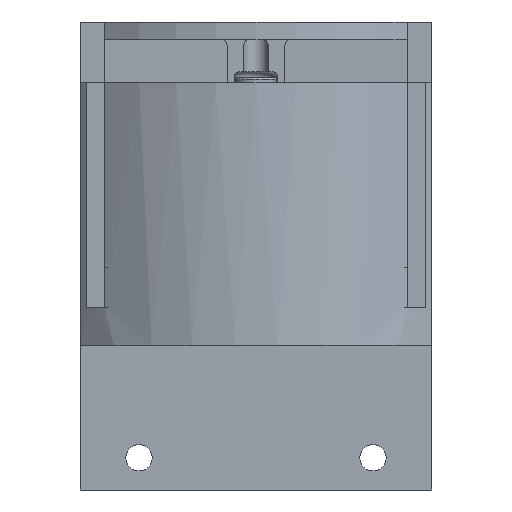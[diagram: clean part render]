
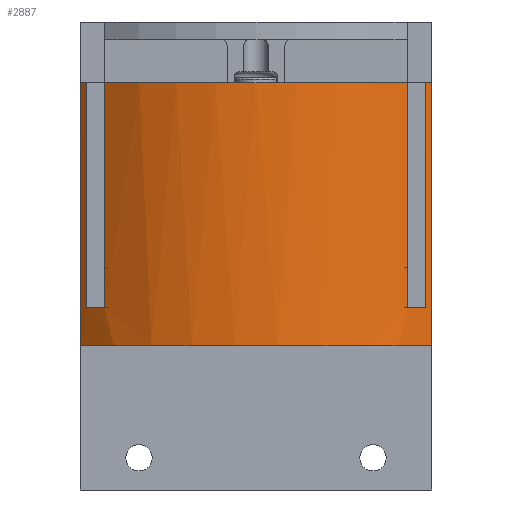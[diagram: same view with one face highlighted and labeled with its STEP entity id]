
A CAD part, front view. The second image highlights one B-rep face of the part: STEP entity #2887.
In plain terms, the highlighted cylindrical face has radius 43.5 mm (diameter 87 mm), a partial arc.
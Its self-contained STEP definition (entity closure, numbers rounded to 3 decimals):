
#158=CYLINDRICAL_SURFACE('',#3252,43.5);
#252=CIRCLE('',#3208,43.5);
#255=CIRCLE('',#3213,43.5);
#258=CIRCLE('',#3220,43.5);
#259=CIRCLE('',#3221,43.5);
#268=CIRCLE('',#3249,43.5);
#269=CIRCLE('',#3253,43.5);
#416=FACE_OUTER_BOUND('',#597,.T.);
#597=EDGE_LOOP('',(#2164,#2165,#2166,#2167,#2168,#2169,#2170,#2171,#2172,
#2173,#2174,#2175));
#771=LINE('',#4648,#1018);
#777=LINE('',#4660,#1024);
#801=LINE('',#4728,#1048);
#829=LINE('',#4804,#1076);
#830=LINE('',#4806,#1077);
#832=LINE('',#4809,#1079);
#1018=VECTOR('',#3606,10.);
#1024=VECTOR('',#3614,10.);
#1048=VECTOR('',#3672,10.);
#1076=VECTOR('',#3754,10.);
#1077=VECTOR('',#3757,10.);
#1079=VECTOR('',#3761,10.);
#1274=VERTEX_POINT('',#4644);
#1276=VERTEX_POINT('',#4647);
#1279=VERTEX_POINT('',#4654);
#1281=VERTEX_POINT('',#4658);
#1284=VERTEX_POINT('',#4666);
#1290=VERTEX_POINT('',#4683);
#1298=VERTEX_POINT('',#4703);
#1299=VERTEX_POINT('',#4705);
#1302=VERTEX_POINT('',#4712);
#1303=VERTEX_POINT('',#4714);
#1308=VERTEX_POINT('',#4726);
#1329=VERTEX_POINT('',#4800);
#1561=EDGE_CURVE('',#1276,#1274,#771,.T.);
#1567=EDGE_CURVE('',#1279,#1281,#777,.T.);
#1571=EDGE_CURVE('',#1284,#1274,#252,.T.);
#1579=EDGE_CURVE('',#1279,#1290,#255,.T.);
#1590=EDGE_CURVE('',#1299,#1298,#258,.T.);
#1595=EDGE_CURVE('',#1303,#1302,#259,.T.);
#1602=EDGE_CURVE('',#1298,#1308,#801,.T.);
#1639=EDGE_CURVE('',#1329,#1308,#268,.T.);
#1640=EDGE_CURVE('',#1284,#1299,#829,.T.);
#1641=EDGE_CURVE('',#1302,#1290,#830,.T.);
#1643=EDGE_CURVE('',#1329,#1303,#832,.T.);
#1644=EDGE_CURVE('',#1276,#1281,#269,.T.);
#2164=ORIENTED_EDGE('',*,*,#1561,.T.);
#2165=ORIENTED_EDGE('',*,*,#1571,.F.);
#2166=ORIENTED_EDGE('',*,*,#1640,.T.);
#2167=ORIENTED_EDGE('',*,*,#1590,.T.);
#2168=ORIENTED_EDGE('',*,*,#1602,.T.);
#2169=ORIENTED_EDGE('',*,*,#1639,.F.);
#2170=ORIENTED_EDGE('',*,*,#1643,.T.);
#2171=ORIENTED_EDGE('',*,*,#1595,.T.);
#2172=ORIENTED_EDGE('',*,*,#1641,.T.);
#2173=ORIENTED_EDGE('',*,*,#1579,.F.);
#2174=ORIENTED_EDGE('',*,*,#1567,.T.);
#2175=ORIENTED_EDGE('',*,*,#1644,.F.);
#2887=ADVANCED_FACE('',(#416),#158,.T.);
#3208=AXIS2_PLACEMENT_3D('',#4668,#3620,#3621);
#3213=AXIS2_PLACEMENT_3D('',#4684,#3635,#3636);
#3220=AXIS2_PLACEMENT_3D('',#4706,#3655,#3656);
#3221=AXIS2_PLACEMENT_3D('',#4715,#3661,#3662);
#3249=AXIS2_PLACEMENT_3D('',#4802,#3750,#3751);
#3252=AXIS2_PLACEMENT_3D('',#4808,#3759,#3760);
#3253=AXIS2_PLACEMENT_3D('',#4810,#3762,#3763);
#3606=DIRECTION('',(0.,0.,-1.));
#3614=DIRECTION('',(0.,0.,1.));
#3620=DIRECTION('center_axis',(0.,0.,-1.));
#3621=DIRECTION('ref_axis',(0.702,0.713,0.));
#3635=DIRECTION('center_axis',(0.,0.,-1.));
#3636=DIRECTION('ref_axis',(0.702,0.713,0.));
#3655=DIRECTION('center_axis',(0.,0.,1.));
#3656=DIRECTION('ref_axis',(0.702,0.713,0.));
#3661=DIRECTION('center_axis',(0.,0.,1.));
#3662=DIRECTION('ref_axis',(0.702,0.713,0.));
#3672=DIRECTION('',(0.,0.,-1.));
#3750=DIRECTION('center_axis',(0.,0.,-1.));
#3751=DIRECTION('ref_axis',(0.702,0.713,0.));
#3754=DIRECTION('',(0.,0.,1.));
#3757=DIRECTION('',(0.,0.,-1.));
#3759=DIRECTION('center_axis',(0.,0.,1.));
#3760=DIRECTION('ref_axis',(0.702,0.713,0.));
#3761=DIRECTION('',(0.,0.,1.));
#3762=DIRECTION('center_axis',(0.,0.,1.));
#3763=DIRECTION('ref_axis',(0.702,0.713,0.));
#4644=CARTESIAN_POINT('',(30.016,0.484,-22.5));
#4647=CARTESIAN_POINT('',(30.016,0.484,22.5));
#4648=CARTESIAN_POINT('',(30.016,0.484,0.));
#4654=CARTESIAN_POINT('',(-30.016,0.484,-22.5));
#4658=CARTESIAN_POINT('',(-30.016,0.484,22.5));
#4660=CARTESIAN_POINT('',(-30.016,0.484,0.));
#4666=CARTESIAN_POINT('',(28.914,1.5,-22.5));
#4668=CARTESIAN_POINT('Origin',(0.,-31.,-22.5));
#4683=CARTESIAN_POINT('',(-28.914,1.5,-22.5));
#4684=CARTESIAN_POINT('Origin',(0.,-31.,-22.5));
#4703=CARTESIAN_POINT('',(25.831,4.,16.));
#4705=CARTESIAN_POINT('',(28.914,1.5,16.));
#4706=CARTESIAN_POINT('Origin',(0.,-31.,16.));
#4712=CARTESIAN_POINT('',(-28.914,1.5,16.));
#4714=CARTESIAN_POINT('',(-25.831,4.,16.));
#4715=CARTESIAN_POINT('Origin',(0.,-31.,16.));
#4726=CARTESIAN_POINT('',(25.831,4.,-22.5));
#4728=CARTESIAN_POINT('',(25.831,4.,0.));
#4800=CARTESIAN_POINT('',(-25.831,4.,-22.5));
#4802=CARTESIAN_POINT('Origin',(0.,-31.,-22.5));
#4804=CARTESIAN_POINT('',(28.914,1.5,0.));
#4806=CARTESIAN_POINT('',(-28.914,1.5,0.));
#4808=CARTESIAN_POINT('Origin',(0.,-31.,0.));
#4809=CARTESIAN_POINT('',(-25.831,4.,0.));
#4810=CARTESIAN_POINT('Origin',(0.,-31.,22.5));
